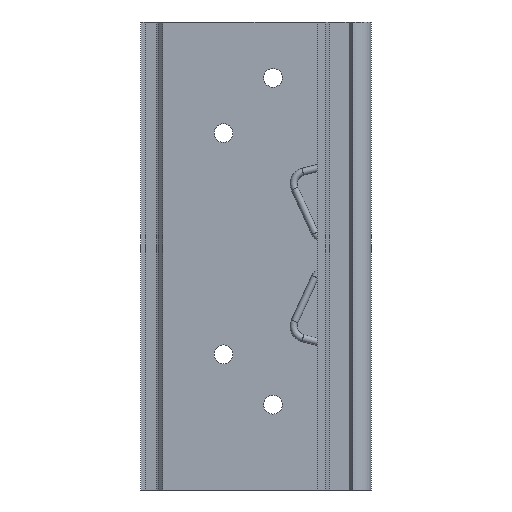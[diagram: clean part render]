
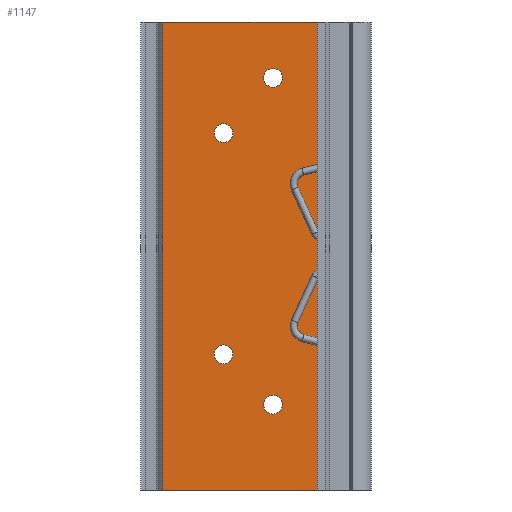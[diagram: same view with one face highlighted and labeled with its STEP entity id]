
A CAD part, left-side view. The second image highlights one B-rep face of the part: STEP entity #1147.
In plain terms, the highlighted planar face has unit normal (-1, 0, 0).
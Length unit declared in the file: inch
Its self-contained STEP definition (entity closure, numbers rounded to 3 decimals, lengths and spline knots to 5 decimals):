
#114=DIRECTION('',(0.,1.,0.));
#115=VECTOR('',#114,1.3025);
#116=CARTESIAN_POINT('',(-0.138,0.455,0.));
#117=LINE('',#116,#115);
#220=DIRECTION('',(0.,0.,1.));
#221=VECTOR('',#220,3.937);
#222=CARTESIAN_POINT('',(-0.138,1.7575,0.));
#223=LINE('',#222,#221);
#224=DIRECTION('',(0.,0.,1.));
#225=VECTOR('',#224,3.937);
#226=CARTESIAN_POINT('',(-0.138,0.455,0.));
#227=LINE('',#226,#225);
#228=CARTESIAN_POINT('',(-0.138,1.244,1.142));
#229=DIRECTION('',(-1.,0.,0.));
#230=DIRECTION('',(0.,-1.,0.));
#231=AXIS2_PLACEMENT_3D('',#228,#229,#230);
#233=CARTESIAN_POINT('',(-0.138,1.244,1.142));
#234=DIRECTION('',(-1.,0.,0.));
#235=DIRECTION('',(0.,1.,0.));
#236=AXIS2_PLACEMENT_3D('',#233,#234,#235);
#238=CARTESIAN_POINT('',(-0.138,1.244,3.002));
#239=DIRECTION('',(-1.,0.,0.));
#240=DIRECTION('',(0.,-1.,0.));
#241=AXIS2_PLACEMENT_3D('',#238,#239,#240);
#243=CARTESIAN_POINT('',(-0.138,1.244,3.002));
#244=DIRECTION('',(-1.,0.,0.));
#245=DIRECTION('',(0.,1.,0.));
#246=AXIS2_PLACEMENT_3D('',#243,#244,#245);
#248=CARTESIAN_POINT('',(-0.138,0.828,0.717));
#249=DIRECTION('',(-1.,0.,0.));
#250=DIRECTION('',(0.,-1.,0.));
#251=AXIS2_PLACEMENT_3D('',#248,#249,#250);
#253=CARTESIAN_POINT('',(-0.138,0.828,0.717));
#254=DIRECTION('',(-1.,0.,0.));
#255=DIRECTION('',(0.,1.,0.));
#256=AXIS2_PLACEMENT_3D('',#253,#254,#255);
#258=CARTESIAN_POINT('',(-0.138,0.828,3.467));
#259=DIRECTION('',(-1.,0.,0.));
#260=DIRECTION('',(0.,-1.,0.));
#261=AXIS2_PLACEMENT_3D('',#258,#259,#260);
#263=CARTESIAN_POINT('',(-0.138,0.828,3.467));
#264=DIRECTION('',(-1.,0.,0.));
#265=DIRECTION('',(0.,1.,0.));
#266=AXIS2_PLACEMENT_3D('',#263,#264,#265);
#332=DIRECTION('',(0.,1.,0.));
#333=VECTOR('',#332,1.3025);
#334=CARTESIAN_POINT('',(-0.138,0.455,3.937));
#335=LINE('',#334,#333);
#633=CARTESIAN_POINT('',(-0.138,0.455,0.));
#634=VERTEX_POINT('',#633);
#645=CARTESIAN_POINT('',(-0.138,0.455,3.937));
#646=VERTEX_POINT('',#645);
#651=CARTESIAN_POINT('',(-0.138,1.7575,0.));
#653=VERTEX_POINT('',#651);
#659=CARTESIAN_POINT('',(-0.138,1.7575,3.937));
#661=VERTEX_POINT('',#659);
#719=CARTESIAN_POINT('',(-0.138,0.74926,3.467));
#720=CARTESIAN_POINT('',(-0.138,0.90674,3.467));
#721=VERTEX_POINT('',#719);
#722=VERTEX_POINT('',#720);
#739=CARTESIAN_POINT('',(-0.138,0.74926,0.717));
#740=CARTESIAN_POINT('',(-0.138,0.90674,0.717));
#741=VERTEX_POINT('',#739);
#742=VERTEX_POINT('',#740);
#759=CARTESIAN_POINT('',(-0.138,1.16526,3.002));
#760=CARTESIAN_POINT('',(-0.138,1.32274,3.002));
#761=VERTEX_POINT('',#759);
#762=VERTEX_POINT('',#760);
#779=CARTESIAN_POINT('',(-0.138,1.16526,1.142));
#780=CARTESIAN_POINT('',(-0.138,1.32274,1.142));
#781=VERTEX_POINT('',#779);
#782=VERTEX_POINT('',#780);
#1110=CARTESIAN_POINT('',(-0.138,0.455,3.937));
#1111=DIRECTION('',(1.,0.,0.));
#1112=DIRECTION('',(0.,1.,0.));
#1113=AXIS2_PLACEMENT_3D('',#1110,#1111,#1112);
#1114=PLANE('',#1113);
#1116=ORIENTED_EDGE('',*,*,#1115,.T.);
#1118=ORIENTED_EDGE('',*,*,#1117,.F.);
#1119=ORIENTED_EDGE('',*,*,#1102,.F.);
#1120=ORIENTED_EDGE('',*,*,#914,.T.);
#1121=EDGE_LOOP('',(#1116,#1118,#1119,#1120));
#1122=FACE_OUTER_BOUND('',#1121,.F.);
#1124=ORIENTED_EDGE('',*,*,#1123,.T.);
#1126=ORIENTED_EDGE('',*,*,#1125,.T.);
#1127=EDGE_LOOP('',(#1124,#1126));
#1128=FACE_BOUND('',#1127,.F.);
#1130=ORIENTED_EDGE('',*,*,#1129,.T.);
#1132=ORIENTED_EDGE('',*,*,#1131,.T.);
#1133=EDGE_LOOP('',(#1130,#1132));
#1134=FACE_BOUND('',#1133,.F.);
#1136=ORIENTED_EDGE('',*,*,#1135,.T.);
#1138=ORIENTED_EDGE('',*,*,#1137,.T.);
#1139=EDGE_LOOP('',(#1136,#1138));
#1140=FACE_BOUND('',#1139,.F.);
#1142=ORIENTED_EDGE('',*,*,#1141,.T.);
#1144=ORIENTED_EDGE('',*,*,#1143,.T.);
#1145=EDGE_LOOP('',(#1142,#1144));
#1146=FACE_BOUND('',#1145,.F.);
#1147=ADVANCED_FACE('',(#1122,#1128,#1134,#1140,#1146),#1114,.F.);
#232=CIRCLE('',#231,0.07874);
#237=CIRCLE('',#236,0.07874);
#242=CIRCLE('',#241,0.07874);
#247=CIRCLE('',#246,0.07874);
#252=CIRCLE('',#251,0.07874);
#257=CIRCLE('',#256,0.07874);
#262=CIRCLE('',#261,0.07874);
#267=CIRCLE('',#266,0.07874);
#914=EDGE_CURVE('',#634,#653,#117,.T.);
#1102=EDGE_CURVE('',#634,#646,#227,.T.);
#1115=EDGE_CURVE('',#653,#661,#223,.T.);
#1117=EDGE_CURVE('',#646,#661,#335,.T.);
#1123=EDGE_CURVE('',#781,#782,#232,.T.);
#1125=EDGE_CURVE('',#782,#781,#237,.T.);
#1129=EDGE_CURVE('',#761,#762,#242,.T.);
#1131=EDGE_CURVE('',#762,#761,#247,.T.);
#1135=EDGE_CURVE('',#741,#742,#252,.T.);
#1137=EDGE_CURVE('',#742,#741,#257,.T.);
#1141=EDGE_CURVE('',#721,#722,#262,.T.);
#1143=EDGE_CURVE('',#722,#721,#267,.T.);
